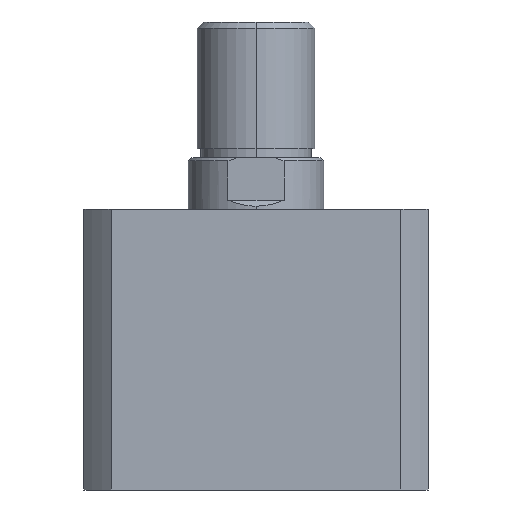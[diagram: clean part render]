
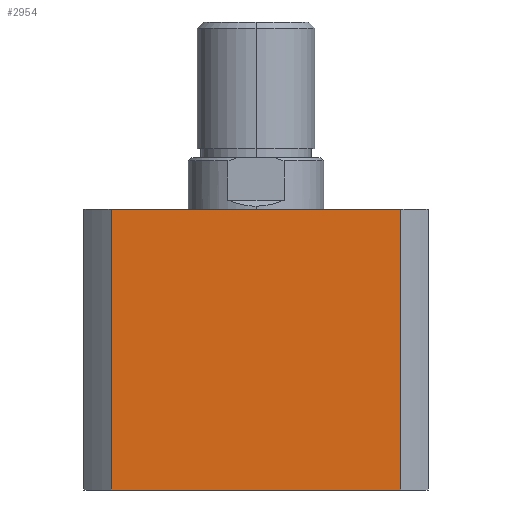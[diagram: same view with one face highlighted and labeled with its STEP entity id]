
A CAD part, left-side view. The second image highlights one B-rep face of the part: STEP entity #2954.
In plain terms, the highlighted planar face has unit normal (-1, 0, 0).
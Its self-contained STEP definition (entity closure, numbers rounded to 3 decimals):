
#2 = DIRECTION ( 'NONE',  ( 1., 0., 0. ) ) ;
#6 = PLANE ( 'NONE',  #2350 ) ;
#16 = CARTESIAN_POINT ( 'NONE',  ( -57., 0., 93. ) ) ;
#255 = CARTESIAN_POINT ( 'NONE',  ( -57., 0., 0. ) ) ;
#267 = DIRECTION ( 'NONE',  ( 0., -1., 0. ) ) ;
#500 = DIRECTION ( 'NONE',  ( 0., -1., 0. ) ) ;
#501 = CARTESIAN_POINT ( 'NONE',  ( -57., 0., 93. ) ) ;
#513 = DIRECTION ( 'NONE',  ( 0., 0., -1. ) ) ;
#515 = CARTESIAN_POINT ( 'NONE',  ( -57., 47.971, 93. ) ) ;
#527 = DIRECTION ( 'NONE',  ( 0., 0., -1. ) ) ;
#528 = CARTESIAN_POINT ( 'NONE',  ( -57., -47.971, 93. ) ) ;
#1003 = EDGE_CURVE ( 'NONE', #2615, #2203, #4534, .T. ) ;
#1077 = EDGE_CURVE ( 'NONE', #2114, #2615, #4619, .T. ) ;
#1079 = EDGE_CURVE ( 'NONE', #2712, #2203, #4623, .T. ) ;
#1080 = EDGE_CURVE ( 'NONE', #2114, #2712, #4624, .T. ) ;
#1389 = FACE_OUTER_BOUND ( 'NONE', #2064, .T. ) ;
#1853 = ORIENTED_EDGE ( 'NONE', *, *, #1003, .T. ) ;
#1855 = ORIENTED_EDGE ( 'NONE', *, *, #1079, .F. ) ;
#1864 = ORIENTED_EDGE ( 'NONE', *, *, #1077, .T. ) ;
#1865 = ORIENTED_EDGE ( 'NONE', *, *, #1080, .F. ) ;
#2064 = EDGE_LOOP ( 'NONE', ( #1853, #1855, #1865, #1864 ) ) ;
#2077 = DIRECTION ( 'NONE',  ( 0., 0., -1. ) ) ;
#2114 = VERTEX_POINT ( 'NONE', #3172 ) ;
#2203 = VERTEX_POINT ( 'NONE', #3075 ) ;
#2350 = AXIS2_PLACEMENT_3D ( 'NONE', #16, #2, #2077 ) ;
#2615 = VERTEX_POINT ( 'NONE', #4397 ) ;
#2712 = VERTEX_POINT ( 'NONE', #4277 ) ;
#2954 = ADVANCED_FACE ( 'NONE', ( #1389 ), #6, .F. ) ;
#3075 = CARTESIAN_POINT ( 'NONE',  ( -57., -47.971, 0. ) ) ;
#3172 = CARTESIAN_POINT ( 'NONE',  ( -57., 47.971, 93. ) ) ;
#4277 = CARTESIAN_POINT ( 'NONE',  ( -57., -47.971, 93. ) ) ;
#4397 = CARTESIAN_POINT ( 'NONE',  ( -57., 47.971, 0. ) ) ;
#4534 = LINE ( 'NONE', #255, #4538 ) ;
#4538 = VECTOR ( 'NONE', #267, 1000. ) ;
#4619 = LINE ( 'NONE', #515, #4622 ) ;
#4622 = VECTOR ( 'NONE', #513, 1000. ) ;
#4623 = LINE ( 'NONE', #528, #4625 ) ;
#4624 = LINE ( 'NONE', #501, #4627 ) ;
#4625 = VECTOR ( 'NONE', #527, 1000. ) ;
#4627 = VECTOR ( 'NONE', #500, 1000. ) ;
